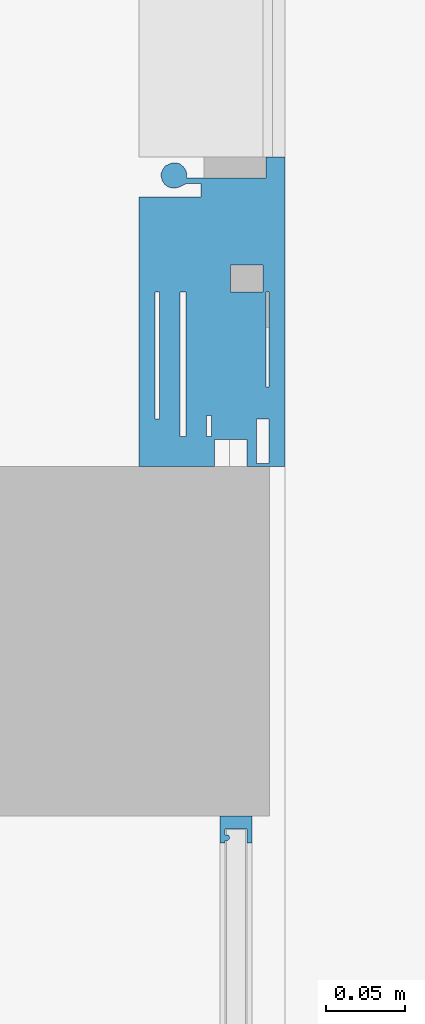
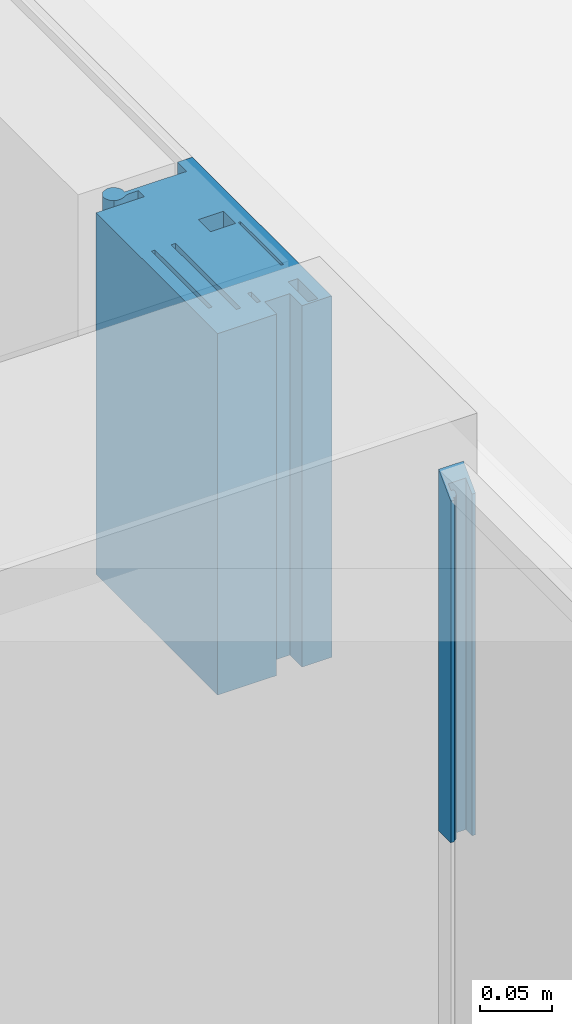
# One storey, part 15 of 79: 2 members, 2 elements without a shape of their own.
"""IFC2X3 building model written with IfcOpenShell, lengths in millimetres."""

from ifc_helpers import new_model, entity, si_unit, converted_unit, derived_unit, money_unit, direction, frame, origin_with_axes, place, context, subcontext, project, spatial, faceted_brep, source, transform, mapped, material, material_list, type_object, element, aggregate, save


model = new_model("IFC2X3")

# Units and contexts
model_context = context("Model", 3, precision=0.01, world=origin_with_axes(), true_north=direction((0.0, 1.0)))
body_context = subcontext(model_context, "Body", "Model", "MODEL_VIEW")
ifc_project = project(units=[si_unit("LENGTHUNIT", "METRE", prefix="MILLI"), si_unit("AREAUNIT", "SQUARE_METRE"), si_unit("VOLUMEUNIT", "CUBIC_METRE"), converted_unit("PLANEANGLEUNIT", "DEGREE", entity("IfcPlaneAngleMeasure", 0.0174532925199), si_unit("PLANEANGLEUNIT", "RADIAN"), dimensions=[0, 0, 0, 0, 0, 0, 0]), si_unit("SOLIDANGLEUNIT", "STERADIAN"), money_unit("EUR"), converted_unit("TIMEUNIT", "Year", entity("IfcTimeMeasure", 31556926.0), si_unit("TIMEUNIT", "SECOND"), dimensions=[0, 0, 1, 0, 0, 0, 0]), si_unit("MASSUNIT", "GRAM", prefix="KILO"), si_unit("THERMODYNAMICTEMPERATUREUNIT", "DEGREE_CELSIUS"), si_unit("LUMINOUSINTENSITYUNIT", "LUMEN"), si_unit("ENERGYUNIT", "JOULE", prefix="MEGA"), derived_unit("THERMALCONDUCTANCEUNIT", [(si_unit("POWERUNIT", "WATT"), 1), (si_unit("LENGTHUNIT", "METRE"), -1), (si_unit("THERMODYNAMICTEMPERATUREUNIT", "KELVIN"), -1)]), derived_unit("SPECIFICHEATCAPACITYUNIT", [(si_unit("ENERGYUNIT", "JOULE"), 1), (si_unit("MASSUNIT", "GRAM", prefix="KILO"), -1), (si_unit("THERMODYNAMICTEMPERATUREUNIT", "KELVIN"), -1)]), derived_unit("MASSDENSITYUNIT", [(si_unit("MASSUNIT", "GRAM", prefix="KILO"), 1), (si_unit("VOLUMEUNIT", "CUBIC_METRE"), -1)])], contexts=[model_context])

# Site, building, storey
site_placement = place(None, origin_with_axes())
site = spatial("IfcSite", under=ifc_project, at=site_placement, Name="L.Koidula tn 11b", CompositionType="ELEMENT")
building_placement = place(site_placement, origin_with_axes())
building = spatial("IfcBuilding", under=site, at=building_placement, Name="Rakvere Riigigümnaasium", CompositionType="ELEMENT")
storey_placement = place(building_placement, frame((0.0, 0.0, 3720.0), z_axis=(0.0, 0.0, 1.0), x_axis=(1.0, 0.0, 0.0)))
storey = spatial("IfcBuildingStorey", under=building, at=storey_placement, Name="2.korrus +3,72", CompositionType="ELEMENT", Elevation=3720.0)

# Curtain wall, member
curtain_wall_type = type_object("IfcCurtainWallType", Name="Curtain Wall Type", PredefinedType="NOTDEFINED")
curtain_wall_1_placement = place(storey_placement, frame((41130.9157939, 20570.4555219, 2.41342252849e-05), z_axis=(0.0, 0.0, 1.0), x_axis=(1.0, 0.0, 0.0)))
curtain_wall_1 = element("IfcCurtainWall", 1, at=curtain_wall_1_placement, inside=storey, type_object=curtain_wall_type, Name="SKLF-13")
ifc_material_1 = material(Name="Puit")
ifc_material_2 = material(Name="Klaasvill")
ifc_material_3 = material(Name="MDF")
ifc_material_4 = material(Name="Alumiiniumprofiil")
ifc_material_5 = material(Name="Teras")
ifc_material_list_1 = material_list([ifc_material_1, ifc_material_2, ifc_material_3, ifc_material_4, ifc_material_5])
member_type_1 = type_object("IfcMemberType", Name="Siseklaasfassaad - Ukseraam hing- klaasita-2 195 x 29", PredefinedType="MULLION")
shared_shape_1 = source(origin_with_axes(), body_context, "Body", "Brep", [
    faceted_brep([(139.859682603, -15.116905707, 0.0), (181.717061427, -15.116905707, 0.0), (181.717061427, -15.116905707, 308.0), (139.859682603, -15.116905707, 308.0), (139.859682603, 50.9999990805, 0.0), (169.859682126, 50.9999990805, 0.0), (169.859683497, 23.9999989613, 0.0), (178.395629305, 23.9999989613, 0.0), (178.395629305, -8.00000062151, 0.0), (181.855103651, -8.00000062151, 0.0), (181.855103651, -15.116905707, 0.0), (181.855103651, -15.116905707, 308.0), (181.855103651, -8.00000062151, 308.0), (178.395629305, -8.00000062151, 308.0), (178.395629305, 23.9999989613, 308.0), (169.859683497, 23.9999989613, 308.0), (169.859682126, 50.9999990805, 308.0), (139.859682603, 50.9999990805, 308.0)], [[[0, 1, 2, 3]], [[0, 4, 5, 6, 7, 8, 9, 10, 1]], [[1, 10, 11, 2]], [[3, 2, 11, 12, 13, 14, 15, 16, 17]], [[4, 0, 3, 17]], [[5, 4, 17, 16]], [[6, 5, 16, 15]], [[7, 6, 15, 14]], [[8, 7, 14, 13]], [[9, 8, 13, 12]], [[10, 9, 12, 11]]]),
    faceted_brep([(31.9999999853, 20.4981590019, 0.0), (31.9999999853, 17.3999984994, 0.0), (31.9999999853, 17.3999984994, 308.0), (31.9999999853, 20.4981590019, 308.0), (109.856776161, 20.498157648, 0.0), (109.856777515, 5.39999855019, 0.0), (109.856777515, -15.0000008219, 0.0), (109.856777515, -16.9999999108, 0.0), (50.0000012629, -17.0000026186, 0.0), (31.9999999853, -16.9999999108, 0.0), (31.9999999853, -10.9998686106, 0.0), (31.9999999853, -4.99999996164, 0.0), (31.9999999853, -4.99999996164, 308.0), (31.9999999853, -10.9998686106, 308.0), (31.9999999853, -16.9999999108, 308.0), (50.0000012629, -17.0000026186, 308.0), (109.856777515, -16.9999999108, 308.0), (109.856777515, -15.0000008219, 308.0), (109.856777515, 5.39999855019, 308.0), (109.856776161, 20.498157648, 308.0)], [[[0, 1, 2, 3]], [[0, 4, 5, 6, 7, 8, 9, 10, 11, 1]], [[1, 11, 12, 2]], [[3, 2, 12, 13, 14, 15, 16, 17, 18, 19]], [[4, 0, 3, 19]], [[5, 4, 19, 18]], [[6, 5, 18, 17]], [[7, 6, 17, 16]], [[8, 7, 16, 15]], [[9, 8, 15, 14]], [[10, 9, 14, 13]], [[11, 10, 13, 12]]]),
    faceted_brep([(2.00000016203, -18.9999768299, 0.0), (2.00000016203, -28.9999775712, 0.0), (2.00000016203, -28.9999775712, 308.0), (2.00000016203, -18.9999768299, 308.0), (29.9999993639, -18.9999998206, 0.0), (31.9999995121, -18.9999998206, 0.0), (50.0000008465, -18.9999998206, 0.0), (109.856776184, -18.9999797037, 0.0), (192.859682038, -18.9999768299, 0.0), (192.859682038, -28.9999775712, 0.0), (192.859682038, -28.9999775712, 308.0), (192.859682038, -18.9999768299, 308.0), (109.856776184, -18.9999797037, 308.0), (50.0000008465, -18.9999998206, 308.0), (31.9999995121, -18.9999998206, 308.0), (29.9999993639, -18.9999998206, 308.0)], [[[0, 1, 2, 3]], [[0, 4, 5, 6, 7, 8, 9, 1]], [[1, 9, 10, 2]], [[3, 2, 10, 11, 12, 13, 14, 15]], [[4, 0, 3, 15]], [[5, 4, 15, 14]], [[6, 5, 14, 13]], [[7, 6, 13, 12]], [[8, 7, 12, 11]], [[9, 8, 11, 10]]]),
    faceted_brep([(167.859682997, 63.0000007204, 0.0), (1.99999972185, 62.9999978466, 0.0), (1.99999972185, 62.9999978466, 308.0), (167.859682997, 63.0000007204, 308.0), (167.859682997, 52.9999999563, 0.0), (139.859683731, 52.9999999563, 0.0), (109.85677599, 52.9999999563, 0.0), (29.9999989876, 52.9999970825, 0.0), (18.6712801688, 52.9999970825, 0.0), (1.99999972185, 52.9999999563, 0.0), (1.99999972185, 52.9999999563, 308.0), (18.6712801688, 52.9999970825, 308.0), (29.9999989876, 52.9999970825, 308.0), (109.85677599, 52.9999999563, 308.0), (139.859683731, 52.9999999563, 308.0), (167.859682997, 52.9999999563, 308.0)], [[[0, 1, 2, 3]], [[0, 4, 5, 6, 7, 8, 9, 1]], [[1, 9, 10, 2]], [[3, 2, 10, 11, 12, 13, 14, 15]], [[4, 0, 3, 15]], [[5, 4, 15, 14]], [[6, 5, 14, 13]], [[7, 6, 13, 12]], [[8, 7, 12, 11]], [[9, 8, 11, 10]]]),
    faceted_brep([(18.9999998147, 33.492630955, 0.0), (18.9999998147, 20.5001075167, 0.0), (18.9999998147, 20.5001075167, 308.0), (18.9999998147, 33.492630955, 308.0), (109.856776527, 33.4906812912, 0.0), (109.856776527, 20.4981578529, 0.0), (31.9999999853, 20.4981590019, 0.0), (31.9999999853, 20.4981590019, 308.0), (109.856776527, 20.4981578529, 308.0), (109.856776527, 33.4906812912, 308.0)], [[[0, 1, 2, 3]], [[0, 4, 5, 6, 1]], [[1, 6, 7, 2]], [[3, 2, 7, 8, 9]], [[4, 0, 3, 9]], [[5, 4, 9, 8]], [[6, 5, 8, 7]]]),
    faceted_brep([(109.854989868, 49.9999988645, 0.0), (19.0000000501, 50.0001085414, 0.0), (19.0000000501, 50.0001085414, 308.0), (109.854989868, 49.9999988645, 308.0), (109.854989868, 36.9999990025, 0.0), (19.0000000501, 37.0001070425, 0.0), (19.0000000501, 37.0001070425, 308.0), (109.854989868, 36.9999990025, 308.0)], [[[0, 1, 2, 3]], [[0, 4, 5, 1]], [[1, 5, 6, 2]], [[3, 2, 6, 7]], [[4, 0, 3, 7]], [[5, 4, 7, 6]]]),
    faceted_brep([(109.856776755, 52.9999991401, 0.0), (109.854989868, 49.9999988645, 0.0), (109.854989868, 49.9999988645, 308.0), (109.856776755, 52.9999991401, 308.0), (139.859682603, 52.9999991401, 0.0), (167.859682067, 52.9999991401, 0.0), (167.859682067, 62.9999994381, 0.0), (169.859682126, 62.9999994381, 0.0), (169.859682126, 54.9999991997, 0.0), (169.859682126, 50.9999990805, 0.0), (139.859682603, 50.9999990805, 0.0), (139.859682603, -15.116905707, 0.0), (181.717061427, -15.116905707, 0.0), (181.717061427, -17.0000002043, 0.0), (194.859682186, -17.0000002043, 0.0), (194.859682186, -20.0740464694, 0.0), (194.859682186, -29.0000005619, 0.0), (192.859683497, -29.0000005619, 0.0), (192.859683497, -18.9999783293, 0.0), (109.856776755, -18.9999783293, 0.0), (109.856777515, -16.9999999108, 0.0), (109.856776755, -15.0000001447, 0.0), (126.859682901, -15.0000001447, 0.0), (126.859682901, 5.39999991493, 0.0), (109.856776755, 5.39999991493, 0.0), (109.856776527, 20.4981578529, 0.0), (109.856776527, 33.4906812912, 0.0), (109.854989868, 36.9999990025, 0.0), (109.854989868, 36.9999990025, 308.0), (109.856776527, 33.4906812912, 308.0), (109.856776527, 20.4981578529, 308.0), (109.856776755, 5.39999991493, 308.0), (126.859682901, 5.39999991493, 308.0), (126.859682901, -15.0000001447, 308.0), (109.856776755, -15.0000001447, 308.0), (109.856777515, -16.9999999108, 308.0), (109.856776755, -18.9999783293, 308.0), (192.859683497, -18.9999783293, 308.0), (192.859683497, -29.0000005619, 308.0), (194.859682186, -29.0000005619, 308.0), (194.859682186, -20.0740464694, 308.0), (194.859682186, -17.0000002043, 308.0), (181.717061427, -17.0000002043, 308.0), (181.717061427, -15.116905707, 308.0), (139.859682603, -15.116905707, 308.0), (139.859682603, 50.9999990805, 308.0), (169.859682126, 50.9999990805, 308.0), (169.859682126, 54.9999991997, 308.0), (169.859682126, 62.9999994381, 308.0), (167.859682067, 62.9999994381, 308.0), (167.859682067, 52.9999991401, 308.0), (139.859682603, 52.9999991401, 308.0)], [[[0, 1, 2, 3]], [[0, 4, 5, 6, 7, 8, 9, 10, 11, 12, 13, 14, 15, 16, 17, 18, 19, 20, 21, 22, 23, 24, 25, 26, 27, 1]], [[1, 27, 28, 2]], [[3, 2, 28, 29, 30, 31, 32, 33, 34, 35, 36, 37, 38, 39, 40, 41, 42, 43, 44, 45, 46, 47, 48, 49, 50, 51]], [[4, 0, 3, 51]], [[5, 4, 51, 50]], [[6, 5, 50, 49]], [[7, 6, 49, 48]], [[8, 7, 48, 47]], [[9, 8, 47, 46]], [[10, 9, 46, 45]], [[11, 10, 45, 44]], [[12, 11, 44, 43]], [[13, 12, 43, 42]], [[14, 13, 42, 41]], [[15, 14, 41, 40]], [[16, 15, 40, 39]], [[17, 16, 39, 38]], [[18, 17, 38, 37]], [[19, 18, 37, 36]], [[20, 19, 36, 35]], [[21, 20, 35, 34]], [[22, 21, 34, 33]], [[23, 22, 33, 32]], [[24, 23, 32, 31]], [[25, 24, 31, 30]], [[26, 25, 30, 29]], [[27, 26, 29, 28]]]),
    faceted_brep([(0.0, 62.9999994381, 0.0), (0.0, 15.3999992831, 0.0), (0.0, 15.3999992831, 308.0), (0.0, 62.9999994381, 308.0), (1.99999958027, 62.9999994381, 0.0), (2.00000095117, 52.999998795, 0.0), (18.6712817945, 52.999998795, 0.0), (29.9999991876, 52.999998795, 0.0), (29.9999991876, 50.0001084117, 0.0), (19.0000008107, 50.0001084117, 0.0), (19.0000000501, 37.0001070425, 0.0), (18.9999998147, 33.492630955, 0.0), (18.9999998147, 20.5001075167, 0.0), (19.0000008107, 17.3999988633, 0.0), (32.0000001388, 17.3999988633, 0.0), (32.0000001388, -5.0, 0.0), (32.0000001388, -10.9998685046, 0.0), (32.0000001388, -17.0000015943, 0.0), (50.0000004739, -17.0000015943, 0.0), (50.0000004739, -18.9999998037, 0.0), (32.0000001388, -18.9999998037, 0.0), (30.0000005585, -18.9999998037, 0.0), (30.0000005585, -17.0000015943, 0.0), (30.0000005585, -10.9998685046, 0.0), (2.00000095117, -10.9998685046, 0.0), (2.00000016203, -18.9999768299, 0.0), (2.00000095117, -28.9999785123, 0.0), (0.0, -28.9999785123, 0.0), (0.0, -5.0, 0.0), (2.00000095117, -5.0, 0.0), (16.9999998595, -5.0, 0.0), (16.9999998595, 15.3999992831, 0.0), (16.9999998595, 15.3999992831, 308.0), (16.9999998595, -5.0, 308.0), (2.00000095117, -5.0, 308.0), (0.0, -5.0, 308.0), (0.0, -28.9999785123, 308.0), (2.00000095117, -28.9999785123, 308.0), (2.00000016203, -18.9999768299, 308.0), (2.00000095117, -10.9998685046, 308.0), (30.0000005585, -10.9998685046, 308.0), (30.0000005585, -17.0000015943, 308.0), (30.0000005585, -18.9999998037, 308.0), (32.0000001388, -18.9999998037, 308.0), (50.0000004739, -18.9999998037, 308.0), (50.0000004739, -17.0000015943, 308.0), (32.0000001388, -17.0000015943, 308.0), (32.0000001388, -10.9998685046, 308.0), (32.0000001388, -5.0, 308.0), (32.0000001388, 17.3999988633, 308.0), (19.0000008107, 17.3999988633, 308.0), (18.9999998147, 20.5001075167, 308.0), (18.9999998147, 33.492630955, 308.0), (19.0000000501, 37.0001070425, 308.0), (19.0000008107, 50.0001084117, 308.0), (29.9999991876, 50.0001084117, 308.0), (29.9999991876, 52.999998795, 308.0), (18.6712817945, 52.999998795, 308.0), (2.00000095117, 52.999998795, 308.0), (1.99999958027, 62.9999994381, 308.0)], [[[0, 1, 2, 3]], [[0, 4, 5, 6, 7, 8, 9, 10, 11, 12, 13, 14, 15, 16, 17, 18, 19, 20, 21, 22, 23, 24, 25, 26, 27, 28, 29, 30, 31, 1]], [[1, 31, 32, 2]], [[3, 2, 32, 33, 34, 35, 36, 37, 38, 39, 40, 41, 42, 43, 44, 45, 46, 47, 48, 49, 50, 51, 52, 53, 54, 55, 56, 57, 58, 59]], [[4, 0, 3, 59]], [[5, 4, 59, 58]], [[6, 5, 58, 57]], [[7, 6, 57, 56]], [[8, 7, 56, 55]], [[9, 8, 55, 54]], [[10, 9, 54, 53]], [[11, 10, 53, 52]], [[12, 11, 52, 51]], [[13, 12, 51, 50]], [[14, 13, 50, 49]], [[15, 14, 49, 48]], [[16, 15, 48, 47]], [[17, 16, 47, 46]], [[18, 17, 46, 45]], [[19, 18, 45, 44]], [[20, 19, 44, 43]], [[21, 20, 43, 42]], [[22, 21, 42, 41]], [[23, 22, 41, 40]], [[24, 23, 40, 39]], [[25, 24, 39, 38]], [[26, 25, 38, 37]], [[27, 26, 37, 36]], [[28, 27, 36, 35]], [[29, 28, 35, 34]], [[30, 29, 34, 33]], [[31, 30, 33, 32]]]),
    faceted_brep([(191.287294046, 42.0314837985, 0.0), (189.304437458, 46.4929115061, 0.0), (189.304437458, 46.4929115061, 308.0), (191.287294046, 42.0314837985, 308.0), (191.287294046, 39.5529134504, 0.0), (190.543723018, 37.0712444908, 0.0), (188.808723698, 35.0883879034, 0.0), (186.82586711, 33.6012450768, 0.0), (184.34729599, 32.8576740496, 0.0), (181.86562703, 33.1055313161, 0.0), (181.658588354, 33.5817206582, 0.0), (181.86562703, 32.1141030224, 0.0), (181.855103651, -8.00000062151, 0.0), (178.395628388, -8.00000056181, 0.0), (178.395629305, 23.9999989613, 0.0), (178.395628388, 31.1195761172, 0.0), (178.147771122, 33.1055313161, 0.0), (177.404200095, 34.840530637, 0.0), (176.164914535, 37.3221995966, 0.0), (175.421343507, 39.7976721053, 0.0), (175.421343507, 42.279341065, 0.0), (176.164914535, 44.7579114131, 0.0), (177.652057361, 46.7407680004, 0.0), (179.882770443, 48.227910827, 0.0), (182.364439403, 48.9714818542, 0.0), (184.843010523, 48.9714818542, 0.0), (187.073723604, 47.9800535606, 0.0), (187.073723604, 47.9800535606, 308.0), (184.843010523, 48.9714818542, 308.0), (182.364439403, 48.9714818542, 308.0), (179.882770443, 48.227910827, 308.0), (177.652057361, 46.7407680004, 308.0), (176.164914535, 44.7579114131, 308.0), (175.421343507, 42.279341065, 308.0), (175.421343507, 39.7976721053, 308.0), (176.164914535, 37.3221995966, 308.0), (177.404200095, 34.840530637, 308.0), (178.147771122, 33.1055313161, 308.0), (178.395628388, 31.1195761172, 308.0), (178.395629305, 23.9999989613, 308.0), (178.395628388, -8.00000056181, 308.0), (181.855103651, -8.00000062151, 308.0), (181.86562703, 32.1141030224, 308.0), (181.658588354, 33.5817206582, 308.0), (181.86562703, 33.1055313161, 308.0), (184.34729599, 32.8576740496, 308.0), (186.82586711, 33.6012450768, 308.0), (188.808723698, 35.0883879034, 308.0), (190.543723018, 37.0712444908, 308.0), (191.287294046, 39.5529134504, 308.0)], [[[0, 1, 2, 3]], [[0, 4, 5, 6, 7, 8, 9, 10, 11, 12, 13, 14, 15, 16, 17, 18, 19, 20, 21, 22, 23, 24, 25, 26, 1]], [[1, 26, 27, 2]], [[3, 2, 27, 28, 29, 30, 31, 32, 33, 34, 35, 36, 37, 38, 39, 40, 41, 42, 43, 44, 45, 46, 47, 48, 49]], [[4, 0, 3, 49]], [[5, 4, 49, 48]], [[6, 5, 48, 47]], [[7, 6, 47, 46]], [[8, 7, 46, 45]], [[9, 8, 45, 44]], [[10, 9, 44, 43]], [[11, 10, 43, 42]], [[12, 11, 42, 41]], [[13, 12, 41, 40]], [[14, 13, 40, 39]], [[15, 14, 39, 38]], [[16, 15, 38, 37]], [[17, 16, 37, 36]], [[18, 17, 36, 35]], [[19, 18, 35, 34]], [[20, 19, 34, 33]], [[21, 20, 33, 32]], [[22, 21, 32, 31]], [[23, 22, 31, 30]], [[24, 23, 30, 29]], [[25, 24, 29, 28]], [[26, 25, 28, 27]]]),
])
member_1_placement = place(curtain_wall_1_placement, frame((-0.0222601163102, -519.999999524, 2199.99997587), z_axis=(0.0, 0.0, 1.0), x_axis=(-4.28079159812e-05, -0.999999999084, 0.0)))
member_1 = element("IfcMember", 2, at=member_1_placement, type_object=member_type_1, material=ifc_material_list_1, Name="Frame-Siseklaasf-001", ObjectType="MULLION", context=body_context, shape_type="MappedRepresentation", body=[
    mapped(shared_shape_1, transform((0.0, 0.0, 0.0), x_axis=(-1.0, 0.0, 0.0), y_axis=(0.0, -1.0, 0.0), z_axis=(0.0, 0.0, 1.0))),
])
aggregate(curtain_wall_1, [member_1])

curtain_wall_2_placement = place(storey_placement, frame((41130.915445, 17840.4555248, 2.4134225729e-05), z_axis=(0.0, 0.0, 1.0), x_axis=(1.0, 0.0, 0.0)))
curtain_wall_2 = element("IfcCurtainWall", 3, at=curtain_wall_2_placement, inside=storey, type_object=curtain_wall_type, Name="SKLF-12")
ifc_material_list_2 = material_list([ifc_material_2, ifc_material_4])
member_type_2 = type_object("IfcMemberType", Name="Boundary Frame 17 x 1", PredefinedType="MULLION")
shared_shape_2 = source(origin_with_axes(), body_context, "Body", "Brep", [
    faceted_brep([(-2.00001937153, -5.0, 0.0), (-2.00001937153, -5.0, 305.999980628), (-8.35001937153, -5.0, 299.649980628), (-8.35001937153, -5.0, 0.0), (-2.00001937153, 9.01614452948, 0.0), (-2.00001937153, 9.01614452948, 305.999980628), (-8.35001937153, 9.01614452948, 299.649980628), (-8.35001937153, 9.01614452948, 0.0)], [[[0, 1, 2, 3]], [[4, 5, 1, 0]], [[1, 5, 6, 2]], [[3, 2, 6, 7]], [[0, 3, 7, 4]], [[7, 6, 5, 4]]]),
    faceted_brep([(-11.987414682, 9.01614444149, 0.0), (-11.987414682, 9.01614444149, 296.012585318), (-12.004489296, 7.03075035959, 295.995510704), (-12.004489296, 7.03075035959, 0.0), (-15.5126239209, 9.01614444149, 0.0), (-15.5126239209, 9.01614444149, 292.487376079), (-15.7655837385, 8.03853257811, 292.234416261), (-15.4955493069, 7.03075035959, 292.504450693), (-14.75780152, 6.29300257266, 293.24219848), (-13.7500193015, 6.02296814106, 294.249980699), (-12.742237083, 6.29300257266, 295.257762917), (-12.742237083, 6.29300257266, 0.0), (-13.7500193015, 6.02296814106, 0.0), (-14.75780152, 6.29300257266, 0.0), (-15.4955493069, 7.03075035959, 0.0), (-15.7655837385, 8.03853257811, 0.0)], [[[0, 1, 2, 3]], [[4, 5, 1, 0]], [[1, 5, 6, 7, 8, 9, 10, 2]], [[3, 2, 10, 11]], [[0, 3, 11, 12, 13, 14, 15, 4]], [[15, 6, 5, 4]], [[14, 7, 6, 15]], [[13, 8, 7, 14]], [[12, 9, 8, 13]], [[11, 10, 9, 12]]]),
    faceted_brep([(0.0, -8.0, 0.0), (0.0, -8.0, 308.0), (-17.0000193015, -8.0, 290.999980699), (-17.0000193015, -8.0, 0.0), (0.0, 12.0, 0.0), (0.0, 12.0, 308.0), (-17.0000193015, 12.0, 290.999980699), (-17.0000193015, 9.01614444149, 290.999980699), (-15.5126239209, 9.01614444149, 292.487376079), (-11.987414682, 9.01614444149, 296.012585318), (-8.35001937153, 9.01614452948, 299.649980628), (-2.00001930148, 9.01614444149, 305.999980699), (-2.00001930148, -5.0, 305.999980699), (-8.35001937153, -5.0, 299.649980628), (-17.0000193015, -5.0, 290.999980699), (-17.0000193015, -5.0, 0.0), (-8.35001937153, -5.0, 0.0), (-2.00001930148, -5.0, 0.0), (-2.00001930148, 9.01614444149, 0.0), (-8.35001937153, 9.01614452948, 0.0), (-11.987414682, 9.01614444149, 0.0), (-15.5126239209, 9.01614444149, 0.0), (-17.0000193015, 9.01614444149, 0.0), (-17.0000193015, 12.0, 0.0)], [[[0, 1, 2, 3]], [[4, 5, 1, 0]], [[1, 5, 6, 7, 8, 9, 10, 11, 12, 13, 14, 2]], [[3, 2, 14, 15]], [[0, 3, 15, 16, 17, 18, 19, 20, 21, 22, 23, 4]], [[23, 6, 5, 4]], [[22, 7, 6, 23]], [[21, 8, 7, 22]], [[20, 9, 8, 21]], [[19, 10, 9, 20]], [[18, 11, 10, 19]], [[17, 12, 11, 18]], [[16, 13, 12, 17]], [[15, 14, 13, 16]]]),
])
member_2_placement = place(curtain_wall_2_placement, frame((0.08385283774, 1989.99999823, 2199.99997587), z_axis=(0.0, 0.0, 1.0), x_axis=(-4.21371043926e-05, -0.999999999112, 0.0)))
member_2 = element("IfcMember", 4, at=member_2_placement, type_object=member_type_2, material=ifc_material_list_2, Name="PV-SKLF-20-raam", ObjectType="MULLION", context=body_context, shape_type="MappedRepresentation", body=[
    mapped(shared_shape_2, transform((0.0, 0.0, 0.0), x_axis=(-1.0, 0.0, 0.0), y_axis=(0.0, -1.0, 0.0), z_axis=(0.0, 0.0, 1.0))),
])
aggregate(curtain_wall_2, [member_2])

save(model, "model.ifc")
